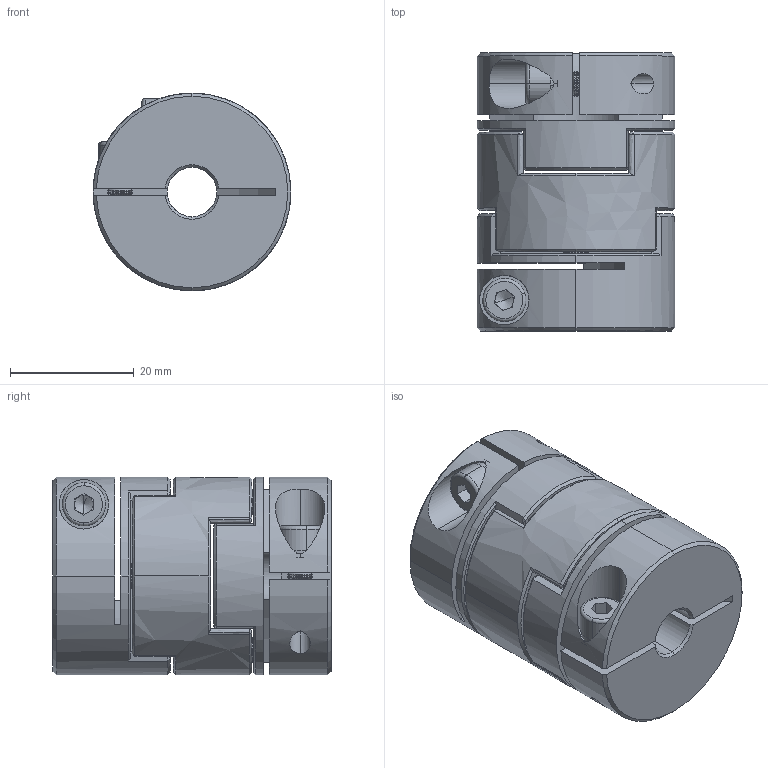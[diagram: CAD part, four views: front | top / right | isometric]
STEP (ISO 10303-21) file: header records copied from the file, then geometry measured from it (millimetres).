
FILE_DESCRIPTION (( 'STEP AP203' ), '1' );
FILE_NAME ('LZ-B-D32L45-8-16.STEP', '2021-10-29T06:40:07', ( '' ), ( '' ), 'SwSTEP 2.0', 'SolidWorks 2018', '' );
FILE_SCHEMA (( 'CONFIG_CONTROL_DESIGN' ));
Length unit declared in the file: millimetre
Products named in the file (1): LZ-B-D32L45-8-16
Bounding box: 32 x 45 x 32 mm (x, y, z)
Volume: 27655.9 mm3; surface area: 13044.8 mm2
Topology: 1 solids, 1 shells, 357 faces, 862 edges, 502 vertices
Faces by surface type: cone 118, cylinder 92, plane 85, bspline 54, torus 8
Entity records: 11209 total; most frequent: CARTESIAN_POINT 3224, ORIENTED_EDGE 1716, DIRECTION 1582, EDGE_CURVE 858, AXIS2_PLACEMENT_3D 620, VERTEX_POINT 502, EDGE_LOOP 382, ADVANCED_FACE 357
